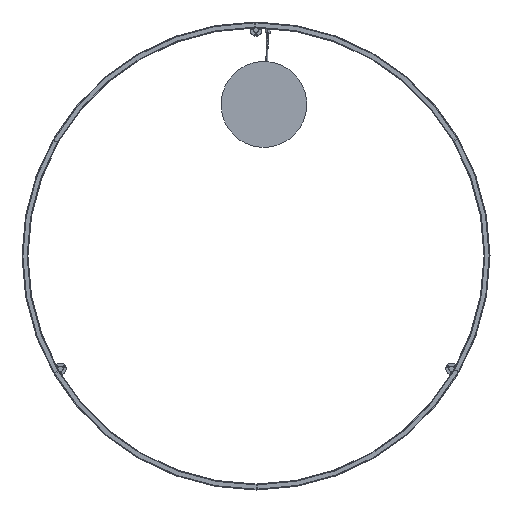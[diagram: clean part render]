
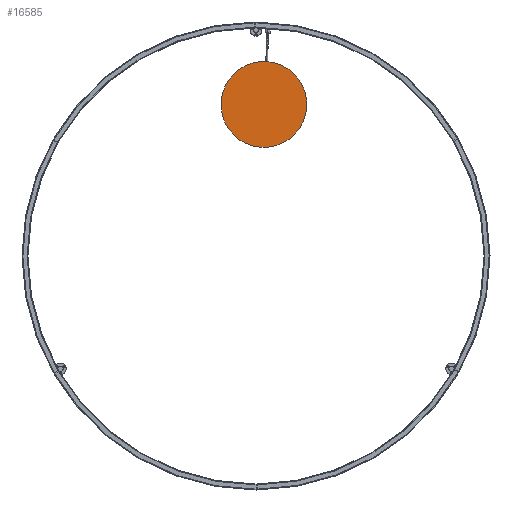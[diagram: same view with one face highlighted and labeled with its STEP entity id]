
A CAD part, front view. The second image highlights one B-rep face of the part: STEP entity #16585.
In plain terms, the highlighted planar face has unit normal (0, -1, 0).
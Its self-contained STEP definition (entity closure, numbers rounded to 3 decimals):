
#13 = DIRECTION ( 'NONE',  ( 0., 1., 0. ) ) ;
#353 = DIRECTION ( 'NONE',  ( 0., 1., 0. ) ) ;
#504 = AXIS2_PLACEMENT_3D ( 'NONE', #19654, #13, #8181 ) ;
#2932 = EDGE_CURVE ( 'NONE', #22067, #23482, #9720, .T. ) ;
#3064 = EDGE_CURVE ( 'NONE', #23482, #22067, #8533, .T. ) ;
#3976 = CARTESIAN_POINT ( 'NONE',  ( 0., -1.5, -165. ) ) ;
#4126 = DIRECTION ( 'NONE',  ( 0., 0., 1. ) ) ;
#6123 = PLANE ( 'NONE',  #23034 ) ;
#7499 = FACE_OUTER_BOUND ( 'NONE', #16052, .T. ) ;
#7664 = DIRECTION ( 'NONE',  ( 0., 1., 0. ) ) ;
#8111 = AXIS2_PLACEMENT_3D ( 'NONE', #17256, #7664, #9809 ) ;
#8181 = DIRECTION ( 'NONE',  ( 0., 0., 1. ) ) ;
#8533 = CIRCLE ( 'NONE', #8111, 165. ) ;
#9339 = ORIENTED_EDGE ( 'NONE', *, *, #2932, .F. ) ;
#9632 = CARTESIAN_POINT ( 'NONE',  ( 0., -1.5, 0. ) ) ;
#9720 = CIRCLE ( 'NONE', #504, 165. ) ;
#9809 = DIRECTION ( 'NONE',  ( 0., 0., 1. ) ) ;
#16052 = EDGE_LOOP ( 'NONE', ( #20527, #9339 ) ) ;
#16585 = ADVANCED_FACE ( 'NONE', ( #7499 ), #6123, .F. ) ;
#17256 = CARTESIAN_POINT ( 'NONE',  ( 0., -1.5, 0. ) ) ;
#18262 = CARTESIAN_POINT ( 'NONE',  ( 0., -1.5, 165. ) ) ;
#19654 = CARTESIAN_POINT ( 'NONE',  ( 0., -1.5, 0. ) ) ;
#20527 = ORIENTED_EDGE ( 'NONE', *, *, #3064, .F. ) ;
#22067 = VERTEX_POINT ( 'NONE', #3976 ) ;
#23034 = AXIS2_PLACEMENT_3D ( 'NONE', #9632, #353, #4126 ) ;
#23482 = VERTEX_POINT ( 'NONE', #18262 ) ;
